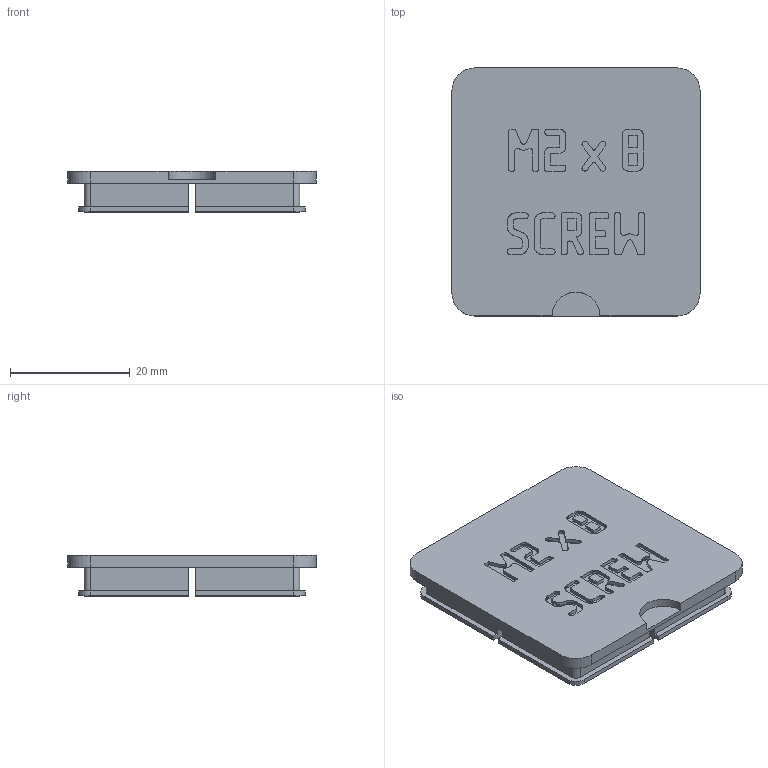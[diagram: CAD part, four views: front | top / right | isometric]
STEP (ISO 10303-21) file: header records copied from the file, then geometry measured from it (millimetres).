
FILE_DESCRIPTION(('Open CASCADE Model'),'2;1');
FILE_NAME('Open CASCADE Shape Model','2026-11-03T17:10:12',('Author'),( 'Open CASCADE'),'Open CASCADE STEP processor 8.0','build123d', 'Unknown');
FILE_SCHEMA(('AUTOMOTIVE_DESIGN { 1 0 10303 214 1 1 1 1 }'));
Products named in the file (1): COMPOUND
Bounding box: 41.5 x 41.5 x 6.9 mm (x, y, z)
Volume: 4187.8 mm3; surface area: 5534.5 mm2
Topology: 1 solids, 1 shells, 1091 faces, 3228 edges, 2152 vertices
Faces by surface type: plane 1070, cylinder 21
Entity records: 77610 total; most frequent: CARTESIAN_POINT 13284, DIRECTION 11714, LINE 9436, VECTOR 9436, ORIENTED_EDGE 6456, PCURVE 6456, DEFINITIONAL_REPRESENTATION 6456, EDGE_CURVE 3228
